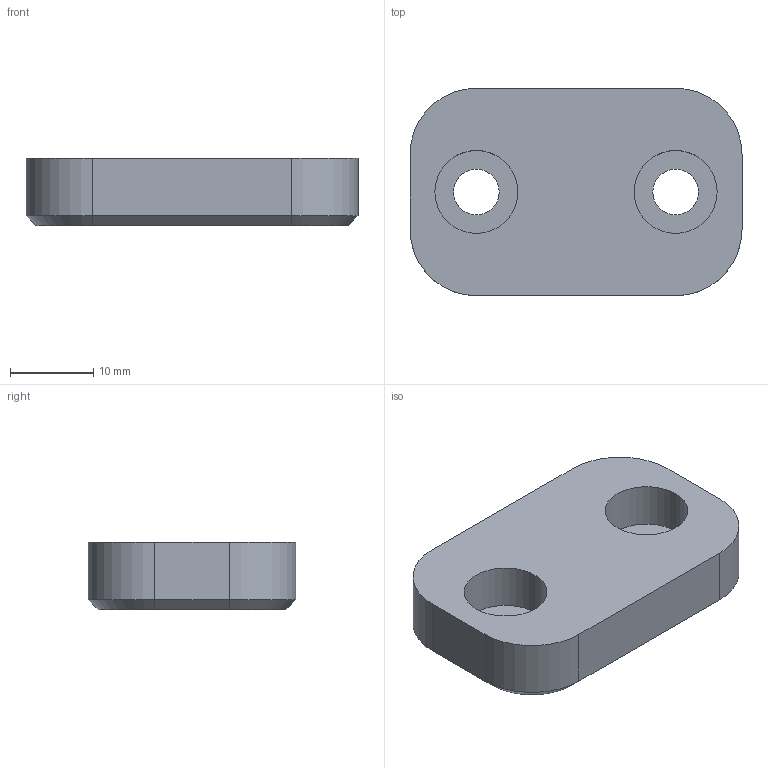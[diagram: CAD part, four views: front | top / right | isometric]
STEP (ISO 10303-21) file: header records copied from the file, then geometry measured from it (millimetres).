
FILE_DESCRIPTION (( 'STEP AP214' ), '1' );
FILE_NAME ('F2680_02504008.STEP', '2024-09-10T07:33:13', ( '' ), ( '' ), 'SwSTEP 2.0', 'SolidWorks 2014', '' );
FILE_SCHEMA (( 'AUTOMOTIVE_DESIGN' ));
Length unit declared in the file: millimetre
Products named in the file (1): F2680_02504008
Bounding box: 40 x 25 x 8.1 mm (x, y, z)
Volume: 6585.6 mm3; surface area: 3088.7 mm2
Topology: 1 solids, 1 shells, 28 faces, 64 edges, 40 vertices
Faces by surface type: cylinder 12, plane 12, cone 4
Entity records: 834 total; most frequent: DIRECTION 150, CARTESIAN_POINT 133, ORIENTED_EDGE 128, EDGE_CURVE 64, AXIS2_PLACEMENT_3D 57, VERTEX_POINT 40, LINE 36, VECTOR 36
